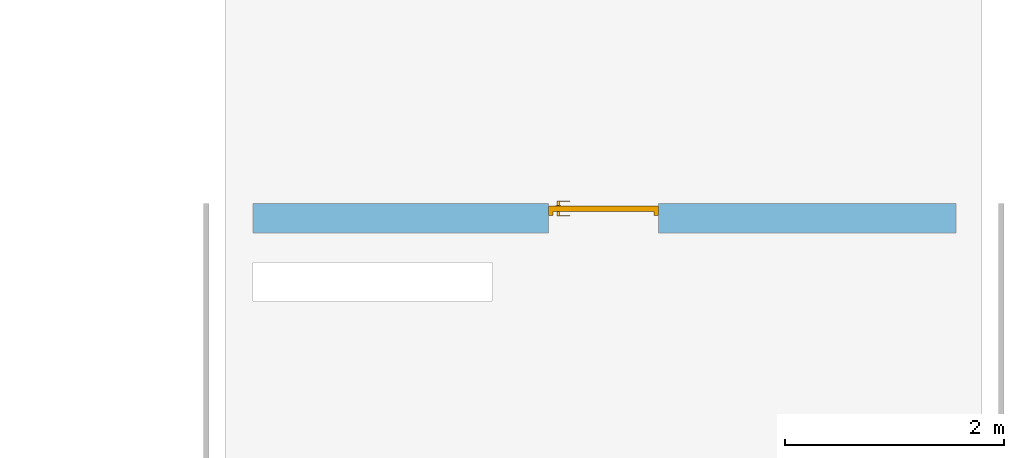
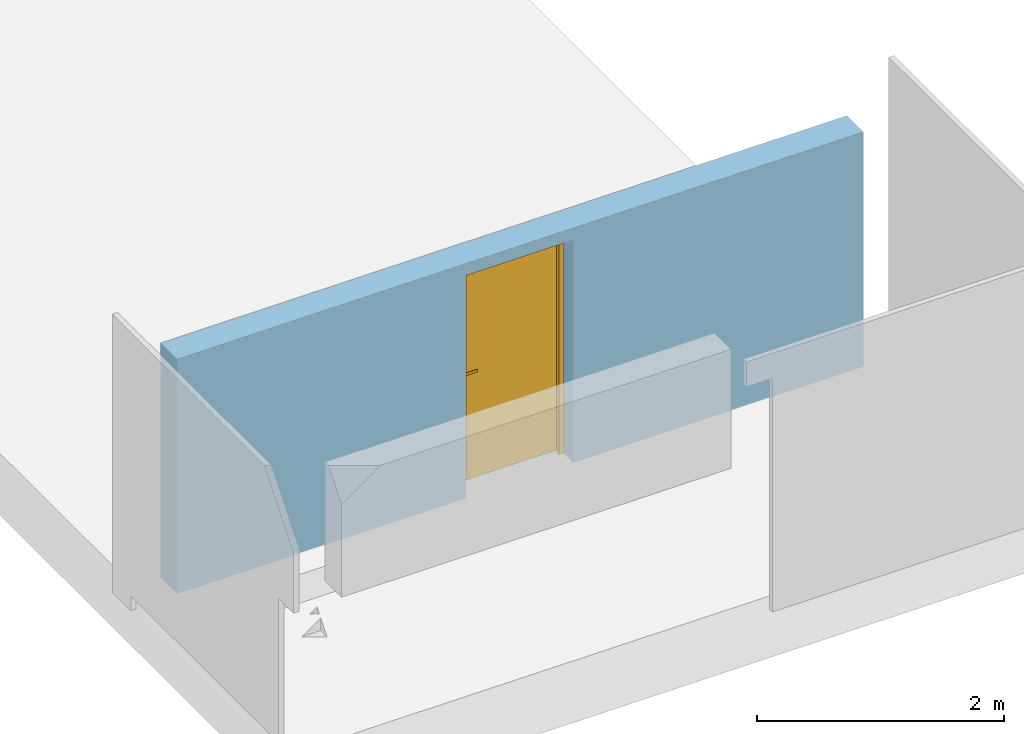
# One storey, part 2 of 2: 1 door, 1 opening, plus 1 element that does not belong to this part.
"""IFC2X3 building model written with IfcOpenShell, lengths in millimetres."""

from ifc_helpers import new_model, entity, si_unit, converted_unit, derived_unit, direction, frame, frame_2d, origin, place, context, subcontext, project, spatial, rectangle, extrude, faceted_brep, source, transform, mapped, material, material_list, layer, layer_set, layer_usage, type_object, type_shapes, element, fill, save


model = new_model("IFC2X3")

# Units and contexts
model_context = context("Model", 3, precision=0.01, world=origin(), true_north=direction((6.12303176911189e-17, 1.0)))
body_context = subcontext(model_context, "Body", "Model", "MODEL_VIEW")
ifc_project = project(units=[si_unit("LENGTHUNIT", "METRE", prefix="MILLI"), si_unit("AREAUNIT", "SQUARE_METRE"), si_unit("VOLUMEUNIT", "CUBIC_METRE"), converted_unit("PLANEANGLEUNIT", "DEGREE", entity("IfcRatioMeasure", 0.0174532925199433), si_unit("PLANEANGLEUNIT", "RADIAN"), dimensions=[0, 0, 0, 0, 0, 0, 0]), si_unit("MASSUNIT", "GRAM", prefix="KILO"), derived_unit("MASSDENSITYUNIT", [(si_unit("MASSUNIT", "GRAM", prefix="KILO"), 1), (si_unit("LENGTHUNIT", "METRE"), -3)]), si_unit("TIMEUNIT", "SECOND"), si_unit("FREQUENCYUNIT", "HERTZ"), si_unit("THERMODYNAMICTEMPERATUREUNIT", "DEGREE_CELSIUS"), derived_unit("THERMALTRANSMITTANCEUNIT", [(si_unit("MASSUNIT", "GRAM", prefix="KILO"), 1), (si_unit("THERMODYNAMICTEMPERATUREUNIT", "KELVIN"), -1), (si_unit("TIMEUNIT", "SECOND"), -3)]), derived_unit("VOLUMETRICFLOWRATEUNIT", [(si_unit("LENGTHUNIT", "METRE"), 3), (si_unit("TIMEUNIT", "SECOND"), -1)]), si_unit("ELECTRICCURRENTUNIT", "AMPERE"), si_unit("ELECTRICVOLTAGEUNIT", "VOLT"), si_unit("POWERUNIT", "WATT"), si_unit("FORCEUNIT", "NEWTON", prefix="KILO"), si_unit("ILLUMINANCEUNIT", "LUX"), si_unit("LUMINOUSFLUXUNIT", "LUMEN"), si_unit("LUMINOUSINTENSITYUNIT", "CANDELA"), derived_unit("USERDEFINED", [(si_unit("MASSUNIT", "GRAM", prefix="KILO"), -1), (si_unit("LENGTHUNIT", "METRE"), -2), (si_unit("TIMEUNIT", "SECOND"), 3), (si_unit("LUMINOUSFLUXUNIT", "LUMEN"), 1)]), derived_unit("LINEARVELOCITYUNIT", [(si_unit("LENGTHUNIT", "METRE"), 1), (si_unit("TIMEUNIT", "SECOND"), -1)]), si_unit("PRESSUREUNIT", "PASCAL"), derived_unit("USERDEFINED", [(si_unit("LENGTHUNIT", "METRE"), -2), (si_unit("MASSUNIT", "GRAM", prefix="KILO"), 1), (si_unit("TIMEUNIT", "SECOND"), -2)])], contexts=[model_context])

# Site, building, storey
site_placement = place(None, frame((-151.875543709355, 2715.0, 0.0)))
site = spatial("IfcSite", under=ifc_project, at=site_placement, Name="Surface", CompositionType="ELEMENT")
building_placement = place(site_placement, origin())
building = spatial("IfcBuilding", under=site, at=building_placement, CompositionType="ELEMENT")
storey_placement = place(building_placement, frame((0.0, 0.0, 11805.0)))
storey = spatial("IfcBuildingStorey", under=building, at=storey_placement, Name="uus Katus", CompositionType="ELEMENT", Elevation=11805.0000000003)

# Wall, opening, door
ifc_material_1 = material(Name="External face timepruun h=1100mm")
ifc_layer_1 = layer(ifc_material_1, 54.0)
ifc_material_2 = material(Name="Core Mineral wool Mineral Wool h=1100mm")
ifc_layer_2 = layer(ifc_material_2, 200.0)
ifc_material_3 = material(Name="__Kips GKB_niiskuskindel")
ifc_layer_3 = layer(ifc_material_3, 12.0)
ifc_layer_set = layer_set([ifc_layer_1, ifc_layer_2, ifc_layer_3], Name="Basic Wall:VS-3_vent.ruumide ja ladude välissein")
ifc_layer_usage = layer_usage(ifc_layer_set, "AXIS2", "NEGATIVE", 133.0)
wall_type = type_object("IfcWallType", Name="Basic Wall:VS-3_vent.ruumide ja ladude välissein", PredefinedType="STANDARD", material=ifc_layer_set)
wall_placement = place(storey_placement, frame((32001.6162682, 15773.039110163, -155.0)))
wall = element("IfcWallStandardCase", 1, at=wall_placement, inside=storey, type_object=wall_type, material=ifc_layer_usage, Name="Basic Wall:VS-3_vent.ruumide ja ladude välissein", ObjectType="Basic Wall:VS-3_vent.ruumide ja ladude välissein", context=body_context, shape_type="SweptSolid", body=[
    extrude(rectangle(XDim=6404.99999999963, YDim=266.0, at=frame_2d((3202.49999999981, 0.0), x_axis=(-1.0, 0.0))), origin(), (0.0, 0.0, 1.0), 2315.0),
])
opening_placement = place(wall_placement, frame((2695.0, -133.0, 0.0)))
opening = element("IfcOpeningElement", 2, at=opening_placement, cuts=wall, Name="Ühepoolsed:VU-04.:1", ObjectType="Opening", context=body_context, shape_type="SweptSolid", body=[
    extrude(rectangle(XDim=2199.99999999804, YDim=1000.0, at=frame_2d((1099.99999999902, 500.0), x_axis=(1.0, 0.0))), frame((0.0, 0.0, 0.0), z_axis=(0.0, 1.0, 0.0), x_axis=(0.0, 0.0, 1.0)), (0.0, 0.0, 1.0), 266.0),
])
ifc_material_4 = material(Name="_Alumiiniumprofiil - must")
ifc_material_5 = material(Name="Steel/Aluminium")
ifc_material_list_1 = material_list([ifc_material_4, ifc_material_5])
ifc_material_list_2 = material_list([ifc_material_4, ifc_material_5])
door_style = type_object("IfcDoorStyle", Name="VU-04.", ConstructionType="NOTDEFINED", OperationType="FOLDING_TO_LEFT", ParameterTakesPrecedence=False, Sizeable=False, material=ifc_material_list_2)
shared_shape = source(origin(), body_context, "Body", "Brep", [
    faceted_brep([(100.0, 156.0, 1112.5), (100.0, 194.0, 1112.5), (75.0, 194.0, 1112.5), (75.0, 151.0, 1112.5), (195.0, 151.0, 1112.5), (195.0, 156.0, 1112.5), (100.0, 156.0, 1087.5), (195.0, 156.0, 1087.5), (195.0, 151.0, 1087.5), (75.0, 151.0, 1087.5), (75.0, 194.0, 1087.5), (100.0, 194.0, 1087.5)], [[[0, 1, 2, 3, 4, 5]], [[6, 7, 8, 9, 10, 11]], [[1, 0, 6, 11]], [[2, 1, 11, 10]], [[3, 2, 10, 9]], [[4, 3, 9, 8]], [[5, 4, 8, 7]], [[0, 5, 7, 6]]]),
    faceted_brep([(112.5, 194.0, 1137.5), (112.5, 196.0, 1137.5), (62.4999999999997, 196.0, 1137.5), (62.4999999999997, 194.0, 1137.5), (112.5, 194.0, 1017.5), (62.4999999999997, 194.0, 1017.5), (62.4999999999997, 196.0, 1017.5), (112.5, 196.0, 1017.5)], [[[0, 1, 2, 3]], [[4, 5, 6, 7]], [[1, 0, 4, 7]], [[2, 1, 7, 6]], [[3, 2, 6, 5]], [[0, 3, 5, 4]]]),
    faceted_brep([(100.0, 286.0, 1112.5), (195.0, 286.0, 1112.5), (195.0, 291.0, 1112.5), (75.0, 291.0, 1112.5), (75.0, 248.0, 1112.5), (100.0, 248.0, 1112.5), (100.0, 286.0, 1087.5), (100.0, 248.0, 1087.5), (75.0, 248.0, 1087.5), (75.0, 291.0, 1087.5), (195.0, 291.0, 1087.5), (195.0, 286.0, 1087.5)], [[[0, 1, 2, 3, 4, 5]], [[6, 7, 8, 9, 10, 11]], [[5, 7, 6, 0]], [[4, 8, 7, 5]], [[3, 9, 8, 4]], [[2, 10, 9, 3]], [[1, 11, 10, 2]], [[0, 6, 11, 1]]]),
    faceted_brep([(112.5, 248.0, 1137.5), (62.4999999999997, 248.0, 1137.5), (62.4999999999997, 246.0, 1137.5), (112.5, 246.0, 1137.5), (112.5, 248.0, 1017.5), (112.5, 246.0, 1017.5), (62.4999999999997, 246.0, 1017.5), (62.4999999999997, 248.0, 1017.5)], [[[0, 1, 2, 3]], [[4, 5, 6, 7]], [[3, 5, 4, 0]], [[2, 6, 5, 3]], [[1, 7, 6, 2]], [[0, 4, 7, 1]]]),
    faceted_brep([(1000.0, 156.0, 0.0), (960.0, 156.0, 0.0), (960.0, 196.0, 0.0), (975.0, 196.0, 0.0), (975.0, 246.0, 0.0), (1000.0, 246.0, 0.0), (1000.0, 156.0, 2200.0), (0.0, 156.0, 2200.0), (0.0, 156.0, 0.0), (40.0, 156.0, 0.0), (40.0, 156.0, 2160.0), (960.0, 156.0, 2160.0), (960.0, 196.0, 2160.0), (40.0, 196.0, 2160.0), (40.0, 196.0, 0.0), (25.0, 196.0, 0.0), (25.0, 196.0, 2175.0), (975.0, 196.0, 2175.0), (975.0, 246.0, 2175.0), (25.0, 246.0, 2175.0), (25.0, 246.0, 0.0), (0.0, 246.0, 0.0), (0.0, 246.0, 2200.0), (1000.0, 246.0, 2200.0)], [[[0, 1, 2, 3, 4, 5]], [[1, 0, 6, 7, 8, 9, 10, 11]], [[2, 1, 11, 12]], [[3, 2, 12, 13, 14, 15, 16, 17]], [[4, 3, 17, 18]], [[5, 4, 18, 19, 20, 21, 22, 23]], [[0, 5, 23, 6]], [[8, 7, 22, 21]], [[9, 8, 21, 20, 15, 14]], [[10, 9, 14, 13]], [[16, 15, 20, 19]], [[11, 10, 13, 12]], [[17, 16, 19, 18]], [[7, 6, 23, 22]]]),
    faceted_brep([(25.0, 196.0, 2175.0), (25.0, 196.0, 20.0), (975.0, 196.0, 20.0), (975.0, 196.0, 2175.0), (25.0, 246.0, 2175.0), (975.0, 246.0, 2175.0), (975.0, 246.0, 20.0), (25.0, 246.0, 20.0)], [[[0, 1, 2, 3]], [[4, 5, 6, 7]], [[1, 0, 4, 7]], [[2, 1, 7, 6]], [[3, 2, 6, 5]], [[0, 3, 5, 4]]]),
])
type_shapes(door_style, [shared_shape])
door_placement = place(opening_placement, origin())
door = element("IfcDoor", 3, at=door_placement, inside=storey, type_object=door_style, material=ifc_material_list_1, Name="Ühepoolsed:VU-04.", ObjectType="VU-04.", OverallHeight=2199.99999999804, OverallWidth=999.999999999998, context=body_context, shape_type="MappedRepresentation", body=[
    mapped(shared_shape, transform((0.0, 0.0, 0.0), scale=1.0)),
])
fill(opening, door)

save(model, "model.ifc")
